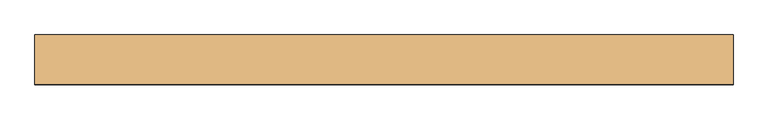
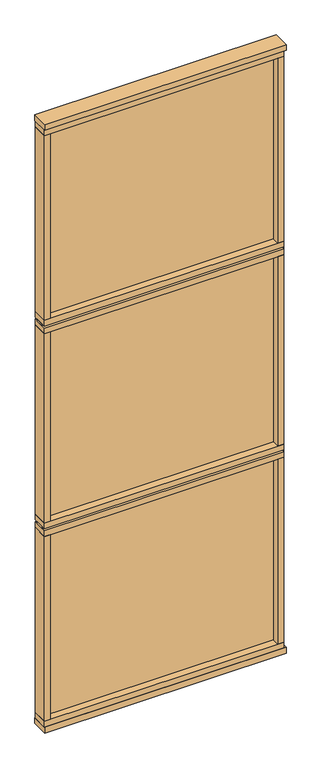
"""IFC4 building model written with IfcOpenShell, lengths in millimetres: door geometry, Mobiliário_Mobiliário de Escritório_Painel de Vidro Simples - AU3T (Complementar)_Marelli : AU3T - Temperado."""

from ifc_helpers import new_model, si_unit, frame, origin, origin_with_axes, place, context, project, spatial, polyline, outline, extrude, source, transform, mapped, element, save


def door_c47d187b(model_context):
    return source(origin(), model_context, "Body", "SweptSolid", [
        extrude(outline(polyline([(600.0, 42.5), (600.0, -42.5), (-600.0, -42.5), (-600.0, 42.5), (600.0, 42.5)])), frame((0.0, 0.0, 3170.0), z_axis=(0.0, 0.0, 1.0), x_axis=(1.0, 0.0, 0.0)), (0.0, 0.0, 1.0), 30.0),
        extrude(outline(polyline([(590.0, 39.5), (590.0, -39.5), (-600.0, -39.5), (-600.0, 39.5), (590.0, 39.5)])), frame((0.0, 0.0, 3140.0), z_axis=(0.0, 0.0, 1.0), x_axis=(1.0, 0.0, 0.0)), (0.0, 0.0, 1.0), 30.0),
        extrude(outline(polyline([(590.0, -21.5), (590.0, 21.5), (600.0, 21.5), (600.0, -21.5), (590.0, -21.5)])), frame((0.0, 0.0, 30.0), z_axis=(0.0, 0.0, 1.0), x_axis=(1.0, 0.0, 0.0)), (0.0, 0.0, 1.0), 3140.0),
        extrude(outline(polyline([(560.0, 3.0), (560.0, -3.0), (-570.0, -3.0), (-570.0, 3.0), (560.0, 3.0)])), frame((0.0, 0.0, 2168.3333333), z_axis=(0.0, 0.0, 1.0), x_axis=(1.0, 0.0, 0.0)), (0.0, 0.0, 1.0), 971.6666667),
        extrude(outline(polyline([(-570.0, 39.5), (-570.0, -39.5), (-600.0, -39.5), (-600.0, 39.5), (-570.0, 39.5)])), frame((0.0, 0.0, 2168.3333333), z_axis=(0.0, 0.0, 1.0), x_axis=(1.0, 0.0, 0.0)), (0.0, 0.0, 1.0), 971.6666667),
        extrude(outline(polyline([(560.0, 39.5), (590.0, 39.5), (590.0, -39.5), (560.0, -39.5), (560.0, 39.5)])), frame((0.0, 0.0, 2168.3333333), z_axis=(0.0, 0.0, 1.0), x_axis=(1.0, 0.0, 0.0)), (0.0, 0.0, 1.0), 971.6666667),
        extrude(outline(polyline([(-570.0, 39.5), (-570.0, -39.5), (-600.0, -39.5), (-600.0, 39.5), (-570.0, 39.5)])), frame((0.0, 0.0, 60.0), z_axis=(0.0, 0.0, 1.0), x_axis=(1.0, 0.0, 0.0)), (0.0, 0.0, 1.0), 971.6666667),
        extrude(outline(polyline([(560.0, 39.5), (590.0, 39.5), (590.0, -39.5), (560.0, -39.5), (560.0, 39.5)])), frame((0.0, 0.0, 60.0), z_axis=(0.0, 0.0, 1.0), x_axis=(1.0, 0.0, 0.0)), (0.0, 0.0, 1.0), 971.6666667),
        extrude(outline(polyline([(590.0, 39.5), (590.0, -39.5), (-600.0, -39.5), (-600.0, 39.5), (590.0, 39.5)])), frame((0.0, 0.0, 30.0), z_axis=(0.0, 0.0, 1.0), x_axis=(1.0, 0.0, 0.0)), (0.0, 0.0, 1.0), 30.0),
        extrude(outline(polyline([(560.0, 3.0), (560.0, -3.0), (-570.0, -3.0), (-570.0, 3.0), (560.0, 3.0)])), frame((0.0, 0.0, 60.0), z_axis=(0.0, 0.0, 1.0), x_axis=(1.0, 0.0, 0.0)), (0.0, 0.0, 1.0), 971.6666667),
        extrude(outline(polyline([(590.0, 39.5), (590.0, -39.5), (-600.0, -39.5), (-600.0, 39.5), (590.0, 39.5)])), frame((0.0, 0.0, 2138.3333333), z_axis=(0.0, 0.0, 1.0), x_axis=(1.0, 0.0, 0.0)), (0.0, 0.0, 1.0), 30.0),
        extrude(outline(polyline([(590.0, 21.5), (590.0, -21.5), (-600.0, -21.5), (-600.0, 21.5), (590.0, 21.5)])), frame((0.0, 0.0, 2128.3333333), z_axis=(0.0, 0.0, 1.0), x_axis=(1.0, 0.0, 0.0)), (0.0, 0.0, 1.0), 10.0),
        extrude(outline(polyline([(590.0, 39.5), (590.0, -39.5), (-600.0, -39.5), (-600.0, 39.5), (590.0, 39.5)])), frame((0.0, 0.0, 2098.3333333), z_axis=(0.0, 0.0, 1.0), x_axis=(1.0, 0.0, 0.0)), (0.0, 0.0, 1.0), 30.0),
        extrude(outline(polyline([(590.0, 21.5), (590.0, -21.5), (-600.0, -21.5), (-600.0, 21.5), (590.0, 21.5)])), frame((0.0, 0.0, 1061.6666667), z_axis=(0.0, 0.0, 1.0), x_axis=(1.0, 0.0, 0.0)), (0.0, 0.0, 1.0), 10.0),
        extrude(outline(polyline([(590.0, 39.5), (590.0, -39.5), (-600.0, -39.5), (-600.0, 39.5), (590.0, 39.5)])), frame((0.0, 0.0, 1071.6666667), z_axis=(0.0, 0.0, 1.0), x_axis=(1.0, 0.0, 0.0)), (0.0, 0.0, 1.0), 30.0),
        extrude(outline(polyline([(590.0, 39.5), (590.0, -39.5), (-600.0, -39.5), (-600.0, 39.5), (590.0, 39.5)])), frame((0.0, 0.0, 1031.6666667), z_axis=(0.0, 0.0, 1.0), x_axis=(1.0, 0.0, 0.0)), (0.0, 0.0, 1.0), 30.0),
        extrude(outline(polyline([(600.0, 42.5), (600.0, -42.5), (-600.0, -42.5), (-600.0, 42.5), (600.0, 42.5)])), origin_with_axes(), (0.0, 0.0, 1.0), 30.0),
        extrude(outline(polyline([(560.0, 3.0), (560.0, -3.0), (-570.0, -3.0), (-570.0, 3.0), (560.0, 3.0)])), frame((0.0, 0.0, 1101.6666667), z_axis=(0.0, 0.0, 1.0), x_axis=(1.0, 0.0, 0.0)), (0.0, 0.0, 1.0), 996.6666667),
        extrude(outline(polyline([(-570.0, 39.5), (-570.0, -39.5), (-600.0, -39.5), (-600.0, 39.5), (-570.0, 39.5)])), frame((0.0, 0.0, 1101.6666667), z_axis=(0.0, 0.0, 1.0), x_axis=(1.0, 0.0, 0.0)), (0.0, 0.0, 1.0), 996.6666667),
        extrude(outline(polyline([(560.0, 39.5), (590.0, 39.5), (590.0, -39.5), (560.0, -39.5), (560.0, 39.5)])), frame((0.0, 0.0, 1101.6666667), z_axis=(0.0, 0.0, 1.0), x_axis=(1.0, 0.0, 0.0)), (0.0, 0.0, 1.0), 996.6666667),
    ])


if __name__ == "__main__":
    model = new_model("IFC4")
    model_context = context("Model", 3, world=origin())
    ifc_project = project(units=[si_unit("LENGTHUNIT", "METRE", prefix="MILLI")], contexts=[model_context])
    site = spatial("IfcSite", under=ifc_project)
    building = spatial("IfcBuilding", under=site)
    placement = place(None, origin())
    door_shape = door_c47d187b(model_context)
    element("IfcDoor", 1, ObjectType="Mobiliário_Mobiliário de Escritório_Painel de Vidro Simples - AU3T (Complementar)_Marelli : AU3T - Temperado", at=placement, inside=building, context=model_context, shape_type="MappedRepresentation", body=[
        mapped(door_shape, transform((0.0, 0.0, 0.0), x_axis=(1.0, 0.0, 0.0), y_axis=(0.0, 1.0, 0.0), z_axis=(0.0, 0.0, 1.0))),
    ])
    save(model, "model.ifc")
